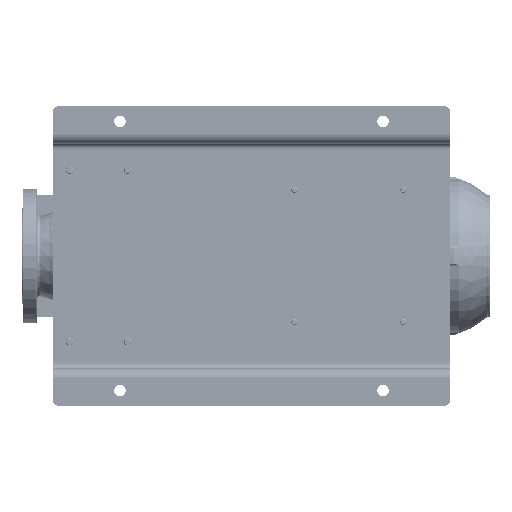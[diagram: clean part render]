
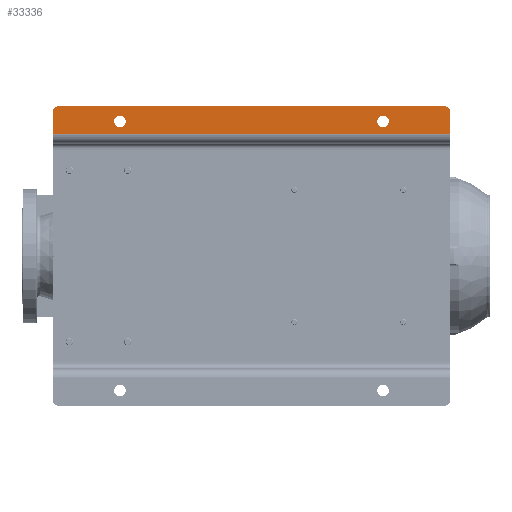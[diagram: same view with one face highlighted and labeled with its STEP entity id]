
A CAD part, front view. The second image highlights one B-rep face of the part: STEP entity #33336.
In plain terms, the highlighted planar face has unit normal (0, -1, 0).
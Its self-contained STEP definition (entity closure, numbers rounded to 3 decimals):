
#654 = ORIENTED_EDGE ( 'NONE', *, *, #123318, .T. ) ;
#1622 = CIRCLE ( 'NONE', #71700, 10. ) ;
#2478 = CIRCLE ( 'NONE', #72546, 9.5 ) ;
#11623 = CARTESIAN_POINT ( 'NONE',  ( 465., 0., -540. ) ) ;
#12245 = VERTEX_POINT ( 'NONE', #82056 ) ;
#14940 = EDGE_CURVE ( 'NONE', #116618, #73084, #50285, .T. ) ;
#15738 = EDGE_CURVE ( 'NONE', #77323, #116618, #67668, .T. ) ;
#17501 = ORIENTED_EDGE ( 'NONE', *, *, #44475, .T. ) ;
#22217 = DIRECTION ( 'NONE',  ( 0., 0., -1. ) ) ;
#24510 = ORIENTED_EDGE ( 'NONE', *, *, #171266, .F. ) ;
#26106 = DIRECTION ( 'NONE',  ( 0., 1., 0. ) ) ;
#31223 = VERTEX_POINT ( 'NONE', #133005 ) ;
#31513 = CARTESIAN_POINT ( 'NONE',  ( 445., 0., -650. ) ) ;
#33336 = ADVANCED_FACE ( 'NONE', ( #52659, #138323, #125913 ), #154470, .T. ) ;
#33839 = CIRCLE ( 'NONE', #179588, 9.5 ) ;
#38789 = AXIS2_PLACEMENT_3D ( 'NONE', #90692, #148733, #47877 ) ;
#41010 = DIRECTION ( 'NONE',  ( 1., 0., 0. ) ) ;
#44081 = EDGE_CURVE ( 'NONE', #85849, #187787, #2478, .T. ) ;
#44475 = EDGE_CURVE ( 'NONE', #122985, #71754, #169778, .T. ) ;
#47877 = DIRECTION ( 'NONE',  ( 0., 0., -1. ) ) ;
#48842 = ORIENTED_EDGE ( 'NONE', *, *, #44081, .T. ) ;
#50285 = CIRCLE ( 'NONE', #138415, 10. ) ;
#51484 = DIRECTION ( 'NONE',  ( 0., 0., 1. ) ) ;
#52659 = FACE_BOUND ( 'NONE', #59284, .T. ) ;
#53898 = DIRECTION ( 'NONE',  ( 0., -1., 0. ) ) ;
#55638 = DIRECTION ( 'NONE',  ( 0., 0., -1. ) ) ;
#57611 = ORIENTED_EDGE ( 'NONE', *, *, #94960, .T. ) ;
#59226 = EDGE_CURVE ( 'NONE', #71754, #122985, #105739, .T. ) ;
#59284 = EDGE_LOOP ( 'NONE', ( #48842, #57611 ) ) ;
#59876 = CARTESIAN_POINT ( 'NONE',  ( 490., 0., -640. ) ) ;
#65029 = CARTESIAN_POINT ( 'NONE',  ( 455.5, 0., -110. ) ) ;
#65372 = DIRECTION ( 'NONE',  ( 0., 0., -1. ) ) ;
#65853 = CARTESIAN_POINT ( 'NONE',  ( 455.5, 0., -540. ) ) ;
#66559 = CARTESIAN_POINT ( 'NONE',  ( 474.5, 0., -540. ) ) ;
#67668 = LINE ( 'NONE', #185602, #141144 ) ;
#68071 = EDGE_CURVE ( 'NONE', #126448, #12245, #120014, .T. ) ;
#69334 = EDGE_LOOP ( 'NONE', ( #115792, #17501 ) ) ;
#69590 = LINE ( 'NONE', #185635, #182611 ) ;
#71700 = AXIS2_PLACEMENT_3D ( 'NONE', #187070, #97622, #127148 ) ;
#71754 = VERTEX_POINT ( 'NONE', #65853 ) ;
#72546 = AXIS2_PLACEMENT_3D ( 'NONE', #110948, #126170, #65372 ) ;
#73084 = VERTEX_POINT ( 'NONE', #175888 ) ;
#77323 = VERTEX_POINT ( 'NONE', #59876 ) ;
#78305 = VECTOR ( 'NONE', #106648, 1000. ) ;
#82056 = CARTESIAN_POINT ( 'NONE',  ( 445., 0., -650. ) ) ;
#85849 = VERTEX_POINT ( 'NONE', #65029 ) ;
#86892 = DIRECTION ( 'NONE',  ( 0., 0., -1. ) ) ;
#89469 = EDGE_CURVE ( 'NONE', #31223, #77323, #1622, .T. ) ;
#90692 = CARTESIAN_POINT ( 'NONE',  ( 465., 0., -540. ) ) ;
#94960 = EDGE_CURVE ( 'NONE', #187787, #85849, #33839, .T. ) ;
#97253 = CARTESIAN_POINT ( 'NONE',  ( 445., 0., 0. ) ) ;
#97622 = DIRECTION ( 'NONE',  ( 0., -1., 0. ) ) ;
#100123 = DIRECTION ( 'NONE',  ( 0., 1., 0. ) ) ;
#102048 = ORIENTED_EDGE ( 'NONE', *, *, #89469, .T. ) ;
#102536 = LINE ( 'NONE', #159665, #125807 ) ;
#105739 = CIRCLE ( 'NONE', #38789, 9.5 ) ;
#106627 = ORIENTED_EDGE ( 'NONE', *, *, #15738, .T. ) ;
#106648 = DIRECTION ( 'NONE',  ( 0., 0., -1. ) ) ;
#107196 = ORIENTED_EDGE ( 'NONE', *, *, #14940, .T. ) ;
#108702 = CARTESIAN_POINT ( 'NONE',  ( 490., 0., -10. ) ) ;
#110687 = DIRECTION ( 'NONE',  ( 0., -1., 0. ) ) ;
#110948 = CARTESIAN_POINT ( 'NONE',  ( 465., 0., -110. ) ) ;
#112581 = CARTESIAN_POINT ( 'NONE',  ( 429., 0., -650. ) ) ;
#115792 = ORIENTED_EDGE ( 'NONE', *, *, #59226, .T. ) ;
#116618 = VERTEX_POINT ( 'NONE', #108702 ) ;
#120014 = LINE ( 'NONE', #31513, #78305 ) ;
#122770 = CARTESIAN_POINT ( 'NONE',  ( 474.5, 0., -110. ) ) ;
#122985 = VERTEX_POINT ( 'NONE', #66559 ) ;
#123318 = EDGE_CURVE ( 'NONE', #12245, #31223, #102536, .T. ) ;
#125807 = VECTOR ( 'NONE', #146311, 1000. ) ;
#125913 = FACE_OUTER_BOUND ( 'NONE', #142672, .T. ) ;
#126170 = DIRECTION ( 'NONE',  ( 0., 1., 0. ) ) ;
#126448 = VERTEX_POINT ( 'NONE', #97253 ) ;
#127148 = DIRECTION ( 'NONE',  ( 0., 0., -1. ) ) ;
#133005 = CARTESIAN_POINT ( 'NONE',  ( 480., 0., -650. ) ) ;
#138323 = FACE_BOUND ( 'NONE', #69334, .T. ) ;
#138415 = AXIS2_PLACEMENT_3D ( 'NONE', #184243, #53898, #86892 ) ;
#141144 = VECTOR ( 'NONE', #51484, 1000. ) ;
#142672 = EDGE_LOOP ( 'NONE', ( #24510, #161052, #654, #102048, #106627, #107196 ) ) ;
#146311 = DIRECTION ( 'NONE',  ( 1., 0., 0. ) ) ;
#148733 = DIRECTION ( 'NONE',  ( 0., 1., 0. ) ) ;
#151579 = AXIS2_PLACEMENT_3D ( 'NONE', #11623, #100123, #158200 ) ;
#154470 = PLANE ( 'NONE',  #162633 ) ;
#158200 = DIRECTION ( 'NONE',  ( 0., 0., -1. ) ) ;
#159665 = CARTESIAN_POINT ( 'NONE',  ( 429., 0., -650. ) ) ;
#161052 = ORIENTED_EDGE ( 'NONE', *, *, #68071, .T. ) ;
#162633 = AXIS2_PLACEMENT_3D ( 'NONE', #112581, #110687, #22217 ) ;
#169778 = CIRCLE ( 'NONE', #151579, 9.5 ) ;
#171266 = EDGE_CURVE ( 'NONE', #126448, #73084, #69590, .T. ) ;
#175888 = CARTESIAN_POINT ( 'NONE',  ( 480., 0., 0. ) ) ;
#179588 = AXIS2_PLACEMENT_3D ( 'NONE', #185059, #26106, #55638 ) ;
#182611 = VECTOR ( 'NONE', #41010, 1000. ) ;
#184243 = CARTESIAN_POINT ( 'NONE',  ( 480., 0., -10. ) ) ;
#185059 = CARTESIAN_POINT ( 'NONE',  ( 465., 0., -110. ) ) ;
#185602 = CARTESIAN_POINT ( 'NONE',  ( 490., 0., -650. ) ) ;
#185635 = CARTESIAN_POINT ( 'NONE',  ( 429., 0., 0. ) ) ;
#187070 = CARTESIAN_POINT ( 'NONE',  ( 480., 0., -640. ) ) ;
#187787 = VERTEX_POINT ( 'NONE', #122770 ) ;
